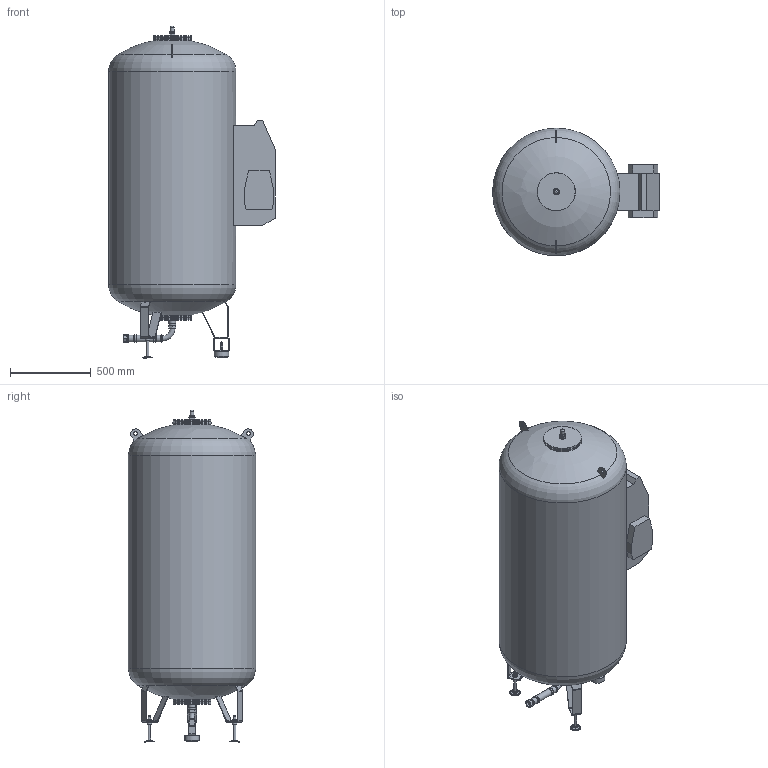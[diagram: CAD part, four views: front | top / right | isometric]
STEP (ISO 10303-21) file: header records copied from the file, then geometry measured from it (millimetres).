
FILE_DESCRIPTION(/* description */ (''),/* implementation_level */ '2;1');
FILE_NAME(/* name */ '\\DATASERVER\data\Flamco\3D-Modellen\Inventor\Flamcomat\2021_Flamcomat MK-U G4\flamcomat_mk-u_g4_800l.stp',/* time_stamp */ '2021-11-29T11:01:42+01:00',/* author */ ('kasius'),/* organization */ (''),/* preprocessor_version */ 'ST-DEVELOPER v17',/* originating_system */ 'Autodesk Inventor 2018',/* authorisation */ '');
FILE_SCHEMA (('AUTOMOTIVE_DESIGN { 1 0 10303 214 3 1 1 }'));
Length unit declared in the file: millimetre
Products named in the file (1): flamcomat_mk-u_g4_800l
Bounding box: 1031.9 x 787.8 x 2054.63 mm (x, y, z)
Volume: 813308263.3 mm3; surface area: 5581129.8 mm2
Topology: 5 solids, 5 shells, 334 faces, 895 edges, 616 vertices
Faces by surface type: plane 166, cylinder 102, cone 58, torus 5, sphere 3
Full cylindrical faces by diameter (mm): 4.6 x1, 9 x1, 10 x2, 12 x1, 12.997 x2, 13 x1, 14 x1, 14.5 x1, 15 x1, 15.997 x4, 17.998 x1, 20 x2, 20.955 x1, 23.5 x2, 24 x1, 27.625 x4, 31 x1, 32.997 x2, 33.7 x1, 38.75 x1, 39 x1, 40.8 x2, 41.4 x1, 41.91 x1, 42 x1, 46 x2, 65 x2, 90 x1, 188 x1, 208.362 x2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
Entity records: 10985 total; most frequent: DIRECTION 1969, CARTESIAN_POINT 1955, ORIENTED_EDGE 1800, EDGE_CURVE 900, AXIS2_PLACEMENT_3D 786, VERTEX_POINT 616, CIRCLE 451, LINE 397
